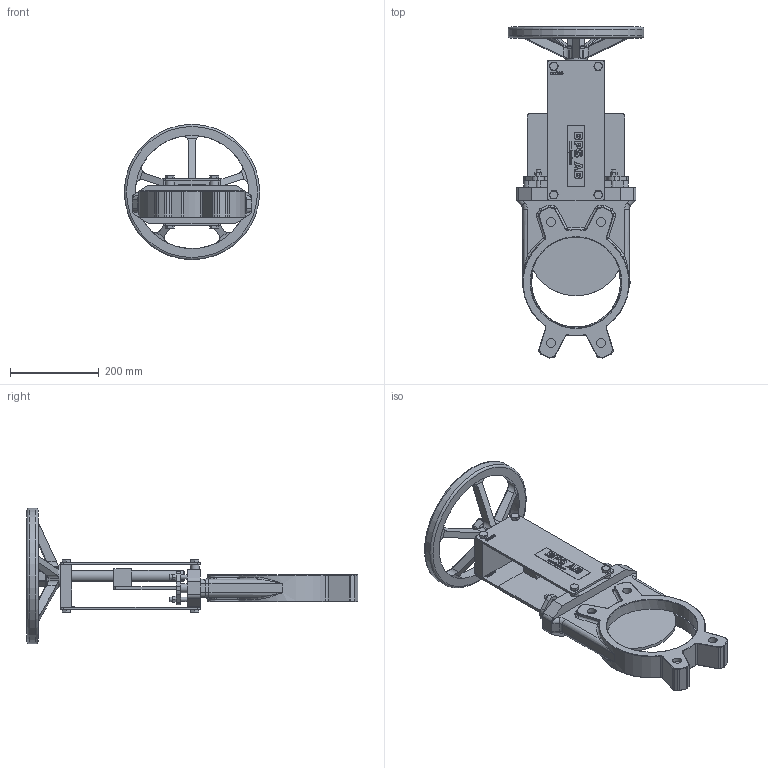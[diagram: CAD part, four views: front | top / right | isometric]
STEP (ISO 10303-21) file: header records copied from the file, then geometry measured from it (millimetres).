
FILE_DESCRIPTION((''),'2;1');
FILE_NAME('Z:\Kunder\BPS\BPS Produkter\BPS 2015\DN 200\Ritningar\BPS 2015200.stp','2012-12-28T10:57:03',('James'),(''),'Autodesk Inventor 2013','Autodesk Inventor 2013','');
FILE_SCHEMA(('AUTOMOTIVE_DESIGN { 1 2 10303 214 0 1 1 1 }'));
Length unit declared in the file: millimetre
Products named in the file (2): BPS 2015200 (SubstituteLevelofDetail1); BPS 2015200
Assembly tree (1 placements, depth 2):
  BPS 2015200 (SubstituteLevelofDetail1)
    BPS 2015200
Bounding box: 305 x 747.77 x 305 mm (x, y, z)
Volume: 4928810.9 mm3; surface area: 720199.6 mm2
Topology: 2 solids, 14 shells, 1243 faces, 3024 edges, 1901 vertices
Faces by surface type: plane 574, bspline 258, cylinder 251, torus 87, cone 53, sphere 20
Full cylindrical faces by diameter (mm): 8 x2, 10 x12, 12 x8, 13 x8, 16.63 x8, 20 x10, 25 x3, 50 x1, 200 x1, 205 x1, 255 x1, 305 x1
Entity records: 44696 total; most frequent: CARTESIAN_POINT 16077, ORIENTED_EDGE 5850, DIRECTION 5070, EDGE_CURVE 2925, VERTEX_POINT 1881, AXIS2_PLACEMENT_3D 1737, VECTOR 1596, LINE 1596
